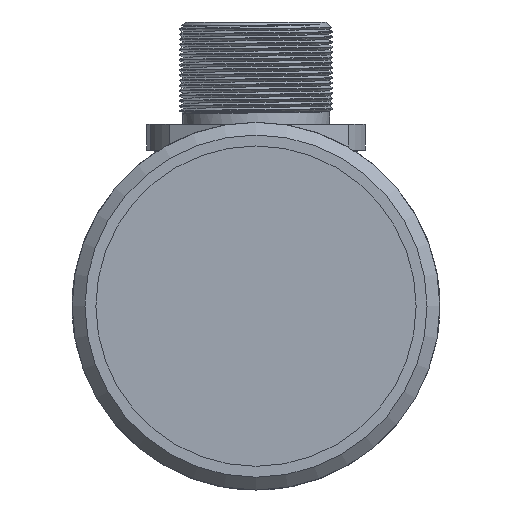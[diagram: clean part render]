
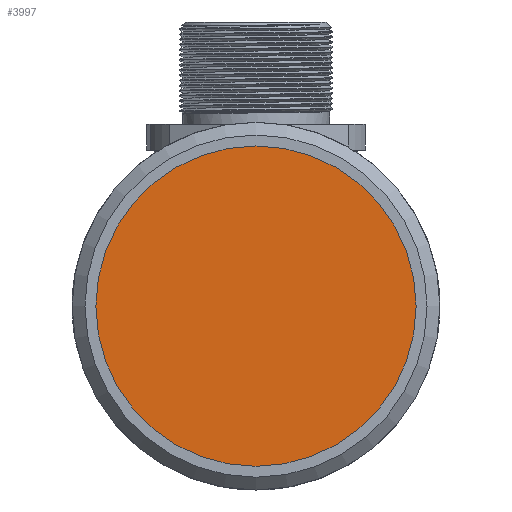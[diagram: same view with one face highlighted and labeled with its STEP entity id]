
A CAD part, left-side view. The second image highlights one B-rep face of the part: STEP entity #3997.
In plain terms, the highlighted planar face has unit normal (-1, 0, 0).
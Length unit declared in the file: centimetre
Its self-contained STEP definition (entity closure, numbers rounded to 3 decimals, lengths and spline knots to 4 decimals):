
#857=CIRCLE('',#4260,1.25);
#1073=VERTEX_POINT('',#6059);
#1985=EDGE_CURVE('',#1073,#1073,#857,.T.);
#2653=ORIENTED_EDGE('',*,*,#1985,.T.);
#3453=EDGE_LOOP('',(#2653));
#3729=FACE_BOUND('',#3453,.T.);
#3997=ADVANCED_FACE('',(#3729),#17071,.T.);
#4260=AXIS2_PLACEMENT_3D('',#6058,#4714,#4715);
#4262=AXIS2_PLACEMENT_3D('',#6062,#4718,$);
#4714=DIRECTION('',(-1.,0.,0.));
#4715=DIRECTION('',(0.,0.,1.25));
#4718=DIRECTION('',(-1.,0.,0.));
#6058=CARTESIAN_POINT('',(0.1,0.,0.));
#6059=CARTESIAN_POINT('',(0.1,0.,1.25));
#6062=CARTESIAN_POINT('',(0.1,0.,0.));
#17071=PLANE('',#4262);
